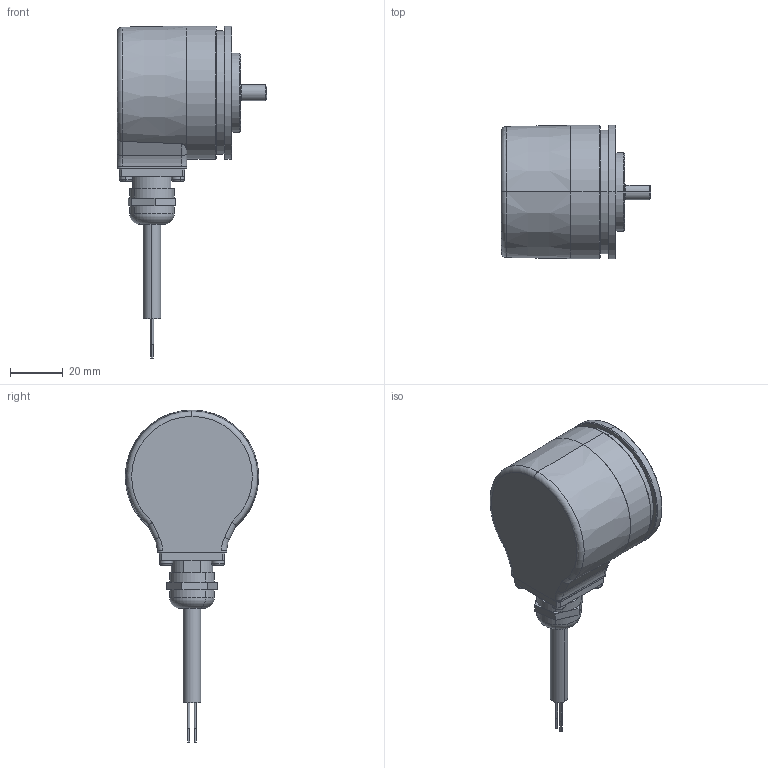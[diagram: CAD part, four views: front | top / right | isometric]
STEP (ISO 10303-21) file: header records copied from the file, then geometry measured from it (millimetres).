
FILE_DESCRIPTION (( 'STEP AP214' ), '1' );
FILE_NAME ('5000.61X2.XXXX.STEP', '2008-11-28T10:23:20', ( 'admin' ), ( 'Fritz Kübler GmbH' ), 'SwSTEP 2.0', 'SolidWorks 2008', '' );
FILE_SCHEMA (( 'AUTOMOTIVE_DESIGN' ));
Length unit declared in the file: millimetre
Products named in the file (1): 5000.61X2.XXXX
Bounding box: 57 x 50.8 x 126.4 mm (x, y, z)
Volume: 55504 mm3; surface area: 37033.2 mm2
Topology: 12 solids, 13 shells, 550 faces, 1289 edges, 778 vertices
Faces by surface type: plane 179, cylinder 165, cone 99, torus 65, sphere 32, bspline 10
Entity records: 22496 total; most frequent: CARTESIAN_POINT 3774, DIRECTION 2837, ORIENTED_EDGE 2446, EDGE_CURVE 1223, AXIS2_PLACEMENT_3D 1173, VERTEX_POINT 748, EDGE_LOOP 641, CIRCLE 632
